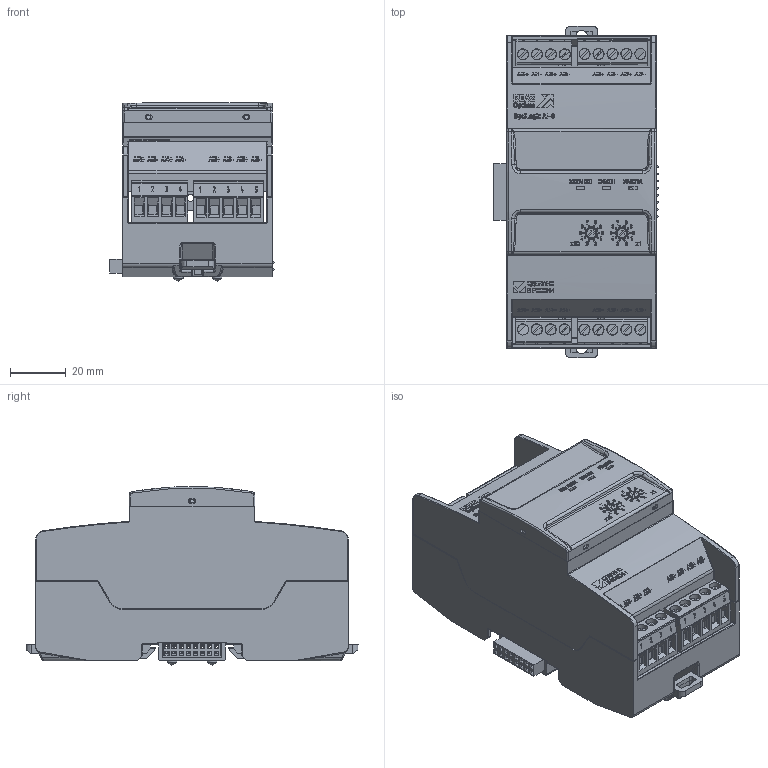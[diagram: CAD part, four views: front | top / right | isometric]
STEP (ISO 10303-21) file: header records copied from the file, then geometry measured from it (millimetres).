
FILE_DESCRIPTION (( 'STEP AP214' ), '1' );
FILE_NAME ('AI-8.STEP', '2020-11-06T11:37:21', ( '' ), ( '' ), 'SwSTEP 2.0', 'SolidWorks 2018', '' );
FILE_SCHEMA (( 'AUTOMOTIVE_DESIGN' ));
Length unit declared in the file: millimetre
Products named in the file (1): AI-8
Bounding box: 58.87 x 119 x 64.1 mm (x, y, z)
Surface area: 52928.3 mm2 (no closed solid volume)
Topology: 0 solids, 302 shells, 1769 faces, 11557 edges, 9964 vertices
Faces by surface type: plane 1059, cylinder 465, torus 107, bspline 71, sphere 35, cone 32
Full cylindrical faces by diameter (mm): 0.5 x1, 0.609 x2, 1.4 x3, 2.8 x2, 3.5 x2, 4 x22, 5.5 x1
Entity records: 146242 total; most frequent: CARTESIAN_POINT 46628, DIRECTION 14427, ORIENTED_EDGE 14300, EDGE_CURVE 11463, VERTEX_POINT 9950, LINE 6479, VECTOR 6479, AXIS2_PLACEMENT_3D 3974
